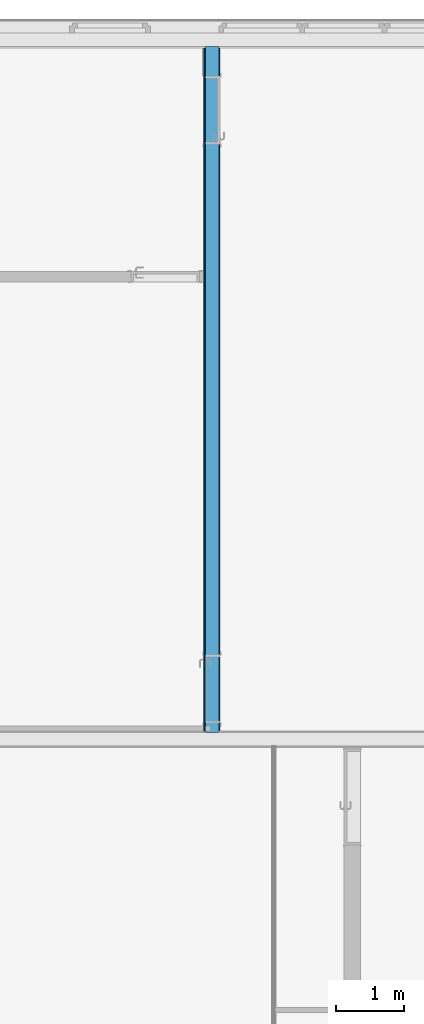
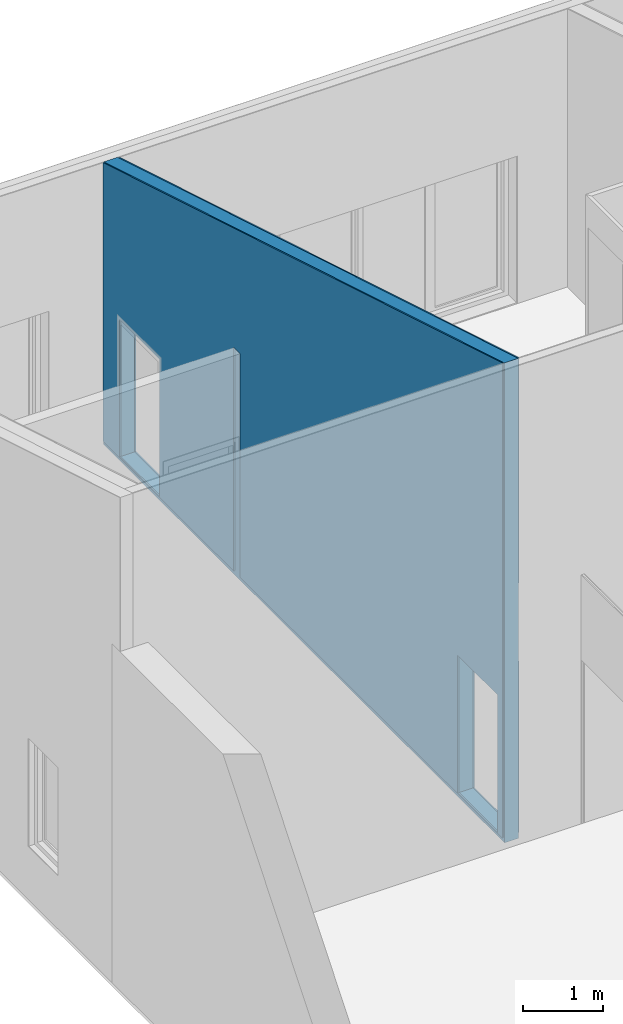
# One storey, part 17 of 34: 3 building element parts, 2 openings, 1 element without a shape of its own.
"""IFC2X3 building model written with IfcOpenShell, lengths in metres."""

import ifcopenshell
import ifcopenshell.guid

model = None  # the IFC model being written
_history = None  # IfcOwnerHistory: only IFC2X3 demands one
_inside = {}  # id of a spatial element -> (the spatial element, [elements in it])
_under = {}  # id of a project, library or spatial element -> (it, [spatial elements below it])
_declared = {}  # id of a project -> (the project, [libraries it declares])
_typed = {}  # id of a type object -> (the type object, [elements of that type])
_made_of = {}  # id of a material, layer set ... -> (it, [elements and type objects made of it])


def new_model(schema):
    """Start an empty IFC model of exactly this schema.

    Asked for "IFC4X3", IfcOpenShell would pick the latest addendum, in which some entities
    have other attributes; the version numbers below select the first issue.
    IFC2X3 requires an IfcOwnerHistory on every rooted entity: one is made here for all.
    """
    global model, _history
    if schema == "IFC4X3":
        model = ifcopenshell.file(schema_version=(4, 3, 0, 0))
    else:
        model = ifcopenshell.file(schema=schema)
    _inside.clear()
    _under.clear()
    _declared.clear()
    _typed.clear()
    _made_of.clear()
    _history = None
    if model.schema == "IFC2X3":
        org = make("IfcOrganization", Name="unknown")
        user = make(
            "IfcPersonAndOrganization",
            ThePerson=make("IfcPerson", FamilyName="unknown"),
            TheOrganization=org,
        )
        app = make(
            "IfcApplication",
            ApplicationDeveloper=org,
            Version="unknown",
            ApplicationFullName="unknown",
            ApplicationIdentifier="unknown",
        )
        _history = make(
            "IfcOwnerHistory",
            OwningUser=user,
            OwningApplication=app,
            ChangeAction="ADDED",
            CreationDate=0,
        )
    return model


def make(cls, **values):
    """One entity of the class cls with the attributes given. An attribute that is None is left unset."""
    return model.create_entity(
        cls, **{name: value for name, value in values.items() if value is not None}
    )


def entity(cls, *values):
    """Any entity or typed value of the class cls, its attributes in the order of the schema. None: left unset."""
    e = model.create_entity(cls)
    for i, value in enumerate(values):
        if value is not None:
            e[i] = value
    return e


def rooted(cls, **values):
    """An entity with a GlobalId (a new one), such as an element, a storey or a relation."""
    return make(cls, GlobalId=ifcopenshell.guid.new(), OwnerHistory=_history, **values)


def si_unit(unit_type, name, prefix=None):
    """IfcSIUnit, for example si_unit("LENGTHUNIT", "METRE", prefix="MILLI")."""
    return make("IfcSIUnit", UnitType=unit_type, Prefix=prefix, Name=name)


def converted_unit(unit_type, name, factor, base, dimensions=None, offset=None):
    """IfcConversionBasedUnit, such as the inch: factor (a typed value) times the base unit."""
    return make(
        "IfcConversionBasedUnit"
        if offset is None
        else "IfcConversionBasedUnitWithOffset",
        ConversionOffset=offset,
        Dimensions=None
        if dimensions is None
        else entity("IfcDimensionalExponents", *dimensions),
        UnitType=unit_type,
        Name=name,
        ConversionFactor=make(
            "IfcMeasureWithUnit", ValueComponent=factor, UnitComponent=base
        ),
    )


def derived_unit(unit_type, elements):
    """IfcDerivedUnit: a product of units, each with its exponent."""
    return make(
        "IfcDerivedUnit",
        Elements=[
            make("IfcDerivedUnitElement", Unit=unit, Exponent=power)
            for unit, power in elements
        ],
        UnitType=unit_type,
    )


def money_unit(currency):
    """IfcMonetaryUnit."""
    return make("IfcMonetaryUnit", Currency=currency)


def assignment(units):
    """IfcUnitAssignment: the units of a project."""
    return None if units is None else make("IfcUnitAssignment", Units=units)


def point(xyz):
    """IfcCartesianPoint."""
    return None if xyz is None else make("IfcCartesianPoint", Coordinates=xyz)


def direction(xyz):
    """IfcDirection."""
    return None if xyz is None else make("IfcDirection", DirectionRatios=xyz)


def frame(location, z_axis=None, x_axis=None):
    """IfcAxis2Placement3D, a coordinate frame: its origin and axes. An axis left out is left unset."""
    return make(
        "IfcAxis2Placement3D",
        Location=point(location),
        Axis=direction(z_axis),
        RefDirection=direction(x_axis),
    )


def frame_2d(location, x_axis=None):
    """IfcAxis2Placement2D, a coordinate frame in the plane: its origin and x axis."""
    return make(
        "IfcAxis2Placement2D", Location=point(location), RefDirection=direction(x_axis)
    )


def origin_with_axes():
    """The frame at (0, 0, 0) with the z axis (0, 0, 1) and the x axis (1, 0, 0) written out."""
    return frame((0.0, 0.0, 0.0), z_axis=(0.0, 0.0, 1.0), x_axis=(1.0, 0.0, 0.0))


def origin_2d_with_axis():
    """The frame at (0, 0) in the plane with the x axis (1, 0) written out."""
    return frame_2d((0.0, 0.0), x_axis=(1.0, 0.0))


def place(relative_to, where):
    """IfcLocalPlacement: puts the frame where relative to a parent placement (None: the world)."""
    return make(
        "IfcLocalPlacement", PlacementRelTo=relative_to, RelativePlacement=where
    )


def context(
    kind, dimensions, precision=None, world=None, true_north=None, identifier=None
):
    """IfcGeometricRepresentationContext, for example the 3D "Model" context."""
    return make(
        "IfcGeometricRepresentationContext",
        ContextIdentifier=identifier,
        ContextType=kind,
        CoordinateSpaceDimension=dimensions,
        Precision=precision,
        WorldCoordinateSystem=world,
        TrueNorth=true_north,
    )


def subcontext(parent, identifier, kind, view, scale=None):
    """IfcGeometricRepresentationSubContext, for example "Body" below "Model"."""
    return make(
        "IfcGeometricRepresentationSubContext",
        ContextIdentifier=identifier,
        ContextType=kind,
        ParentContext=parent,
        TargetScale=scale,
        TargetView=view,
    )


def project(units=None, contexts=None):
    """IfcProject with its units and contexts."""
    return rooted(
        "IfcProject",
        Name="project",
        RepresentationContexts=contexts,
        UnitsInContext=assignment(units),
    )


def spatial(cls, under=None, at=None, **own):
    """A site, building, storey or space (cls), placed at a placement, below another one or the project."""
    s = rooted(cls, ObjectPlacement=at, **own)
    if under is not None:
        _under.setdefault(under.id(), (under, []))[1].append(s)
    return s


def polyline(points):
    """IfcPolyline through the points."""
    return make("IfcPolyline", Points=[point(p) for p in points])


def profile(cls, at=None, kind="AREA", **sizes):
    """A parametric profile (cls). Its sizes go by their IFC names, for example OverallWidth=200.0."""
    return make(cls, ProfileType=kind, Position=at, **sizes)


def rectangle(**sizes):
    """IfcRectangleProfileDef."""
    return profile("IfcRectangleProfileDef", **sizes)


def outline(outer, holes=None, kind="AREA"):
    """IfcArbitraryClosedProfileDef: a profile drawn as a closed curve; with holes, ...WithVoids."""
    if holes is None:
        return make("IfcArbitraryClosedProfileDef", ProfileType=kind, OuterCurve=outer)
    return make(
        "IfcArbitraryProfileDefWithVoids",
        ProfileType=kind,
        OuterCurve=outer,
        InnerCurves=holes,
    )


def extrude(swept, where, along, depth):
    """IfcExtrudedAreaSolid: the profile swept, set in the frame where, extruded along a direction by depth."""
    return make(
        "IfcExtrudedAreaSolid",
        SweptArea=swept,
        Position=where,
        ExtrudedDirection=direction(along),
        Depth=depth,
    )


def boolean(op, a, b):
    """IfcBooleanResult of two solids."""
    return make("IfcBooleanResult", Operator=op, FirstOperand=a, SecondOperand=b)


def faces_of(points, faces, orient=None, outer=None):
    """IfcFace entities. A face is a list of loops; a loop is a list of indices into points, from 0.

    orient and outer hold one flag for each loop. By default every Orientation is true, the
    first loop of a face is its IfcFaceOuterBound and the others are IfcFaceBound.
    """
    made = []
    for i, loops in enumerate(faces):
        bounds = []
        for j, loop in enumerate(loops):
            is_outer = j == 0 if outer is None else outer[i][j]
            bounds.append(
                make(
                    "IfcFaceOuterBound" if is_outer else "IfcFaceBound",
                    Bound=make("IfcPolyLoop", Polygon=[points[k] for k in loop]),
                    Orientation=True if orient is None else orient[i][j],
                )
            )
        made.append(make("IfcFace", Bounds=bounds))
    return made


def faceted_brep(points, faces, orient=None, outer=None, voids=None):
    """IfcFacetedBrep: a solid bounded by flat faces; with voids (closed shells), ...WithVoids."""
    shared = [point(p) for p in points]
    hull = make("IfcClosedShell", CfsFaces=faces_of(shared, faces, orient, outer))
    if voids is None:
        return make("IfcFacetedBrep", Outer=hull)
    return make(
        "IfcFacetedBrepWithVoids",
        Outer=hull,
        Voids=[
            make(cls, CfsFaces=faces_of(shared, fs, o, b)) for cls, fs, o, b in voids
        ],
    )


def shape(context_of_items, identifier, shape_type, items):
    """IfcShapeRepresentation: the items that make up one representation, for example the "Body"."""
    return make(
        "IfcShapeRepresentation",
        ContextOfItems=context_of_items,
        RepresentationIdentifier=identifier,
        RepresentationType=shape_type,
        Items=items,
    )


def material(Name=None, Category=None):
    """IfcMaterial."""
    return make("IfcMaterial", Name=Name, Category=Category)


def made_of(thing, what):
    """Note that an element or type object is made of a material, layer set ...; save() writes the relation."""
    if what is not None:
        _made_of.setdefault(what.id(), (what, []))[1].append(thing)
    return thing


def type_object(cls, material=None, **own):
    """A type object (cls), such as IfcWallType, which elements share."""
    return made_of(rooted(cls, **own), material)


def element(
    cls,
    number,
    at=None,
    inside=None,
    cuts=None,
    type_object=None,
    material=None,
    context=None,
    identifier="Body",
    shape_type=None,
    held_by="IfcProductDefinitionShape",
    body=None,
    shapes=None,
    **own,
):
    """One element of the class cls, such as IfcWall. Its Tag is "e" and its number.

    at: its placement. inside: the storey or other place that contains it. cuts: it is an
    opening in that element (IfcRelVoidsElement). A single representation is given by context,
    identifier, shape_type and body (its items); several are given by shapes. held_by: the class
    of the entity that holds the representations. save() writes the other relations.
    """
    e = rooted(cls, Tag="e%d" % number, ObjectPlacement=at, **own)
    if body is not None:
        shapes = [shape(context, identifier, shape_type, body)]
    if shapes is not None:
        e.Representation = make(held_by, Representations=shapes)
    if inside is not None:
        _inside.setdefault(inside.id(), (inside, []))[1].append(e)
    if cuts is not None:
        rooted(
            "IfcRelVoidsElement", RelatingBuildingElement=cuts, RelatedOpeningElement=e
        )
    if type_object is not None:
        _typed.setdefault(type_object.id(), (type_object, []))[1].append(e)
    return made_of(e, material)


def aggregate(whole, parts):
    """IfcRelAggregates: a whole, such as a stair, and the parts it consists of."""
    return rooted("IfcRelAggregates", RelatingObject=whole, RelatedObjects=parts)


def save(model, path):
    """Write the relations noted so far, then the file.

    IfcRelAggregates (storeys below a building ...), IfcRelContainedInSpatialStructure (elements
    in a storey), IfcRelDefinesByType, IfcRelAssociatesMaterial and IfcRelDeclares: one each for
    every whole, place, type object, material and project.
    """
    for whole, parts in _under.values():
        aggregate(whole, parts)
    for where, things in _inside.values():
        rooted(
            "IfcRelContainedInSpatialStructure",
            RelatedElements=things,
            RelatingStructure=where,
        )
    for kind, things in _typed.values():
        rooted("IfcRelDefinesByType", RelatedObjects=things, RelatingType=kind)
    for what, things in _made_of.values():
        rooted("IfcRelAssociatesMaterial", RelatedObjects=things, RelatingMaterial=what)
    for by, libraries in _declared.values():
        rooted("IfcRelDeclares", RelatingContext=by, RelatedDefinitions=libraries)
    model.write(path)


model = new_model("IFC2X3")

# Units and contexts
model_context = context("Model", 3, precision=1e-05, world=origin_with_axes(), true_north=direction((0.0, 1.0)))
body_context = subcontext(model_context, "Body", "Model", "MODEL_VIEW")
ifc_project = project(units=[si_unit("LENGTHUNIT", "METRE"), si_unit("AREAUNIT", "SQUARE_METRE"), si_unit("VOLUMEUNIT", "CUBIC_METRE"), converted_unit("PLANEANGLEUNIT", "DEGREE", entity("IfcPlaneAngleMeasure", 0.0174532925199), si_unit("PLANEANGLEUNIT", "RADIAN"), dimensions=[0, 0, 0, 0, 0, 0, 0]), money_unit("CHF"), converted_unit("TIMEUNIT", "Year", entity("IfcTimeMeasure", 31556926.0), si_unit("TIMEUNIT", "SECOND"), dimensions=[0, 0, 1, 0, 0, 0, 0]), si_unit("MASSUNIT", "GRAM", prefix="KILO"), si_unit("THERMODYNAMICTEMPERATUREUNIT", "DEGREE_CELSIUS"), si_unit("LUMINOUSINTENSITYUNIT", "LUMEN"), si_unit("ENERGYUNIT", "JOULE", prefix="MEGA"), derived_unit("THERMALCONDUCTANCEUNIT", [(si_unit("POWERUNIT", "WATT"), 1), (si_unit("LENGTHUNIT", "METRE"), -1), (si_unit("THERMODYNAMICTEMPERATUREUNIT", "KELVIN"), -1)]), derived_unit("SPECIFICHEATCAPACITYUNIT", [(si_unit("ENERGYUNIT", "JOULE"), 1), (si_unit("MASSUNIT", "GRAM", prefix="KILO"), -1), (si_unit("THERMODYNAMICTEMPERATUREUNIT", "KELVIN"), -1)]), derived_unit("MASSDENSITYUNIT", [(si_unit("MASSUNIT", "GRAM", prefix="KILO"), 1), (si_unit("VOLUMEUNIT", "CUBIC_METRE"), -1)])], contexts=[model_context])

# Site, building, storey
site_placement = place(None, origin_with_axes())
site = spatial("IfcSite", under=ifc_project, at=site_placement, Name="Site", CompositionType="ELEMENT")
building_placement = place(site_placement, origin_with_axes())
building = spatial("IfcBuilding", under=site, at=building_placement, Name="Bâtiment", CompositionType="ELEMENT")
storey_placement = place(building_placement, origin_with_axes())
storey = spatial("IfcBuildingStorey", under=building, at=storey_placement, Name="Rez-de-chaussée", CompositionType="ELEMENT", Elevation=0.0)

# Wall, openings, building element parts
wall_type = type_object("IfcWallType", Name="Mur 20cm + enduit 2cm 240", PredefinedType="NOTDEFINED")
wall_placement = place(storey_placement, frame((16.6394697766, 25.2201256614, -0.21), z_axis=(0.0, 0.0, 1.0), x_axis=(0.0, -1.0, 0.0)))
wall = element("IfcWall", 1, at=wall_placement, inside=storey, type_object=wall_type, Name="MUR_EXT-007")
opening_1_placement = place(wall_placement, frame((9.48512566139, 0.0, 0.21), z_axis=(0.0, 0.0, 1.0), x_axis=(1.0, 0.0, 0.0)))
element("IfcOpeningElement", 2, at=opening_1_placement, cuts=wall, Name="PORTE-PP90 A2 - PF1/2H", context=body_context, shape_type="SweptSolid", body=[
    extrude(rectangle(XDim=1.0, YDim=2.1, at=origin_2d_with_axis()), frame((0.0, 0.24, 1.05), z_axis=(0.0, 1.0, 0.0), x_axis=(1.0, 0.0, 0.0)), (0.0, 0.0, -1.0), 0.72),
    extrude(rectangle(XDim=1.1, YDim=2.15, at=origin_2d_with_axis()), frame((0.0, 0.12, 1.075), z_axis=(0.0, 1.0, 0.0), x_axis=(1.0, 0.0, 0.0)), (0.0, 0.0, 1.0), 0.24),
    extrude(rectangle(XDim=1.09, YDim=2.145, at=origin_2d_with_axis()), frame((0.0, -0.12, 1.0725), z_axis=(0.0, -1.0, 0.0), x_axis=(1.0, 0.0, 0.0)), (0.0, 0.0, 1.0), 0.24),
])
opening_2_placement = place(wall_placement, frame((1.02747499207, 0.0, 0.21), z_axis=(0.0, 0.0, 1.0), x_axis=(1.0, 0.0, 0.0)))
element("IfcOpeningElement", 3, at=opening_2_placement, cuts=wall, Name="PORTE-PP90 A2 - PF1/2H", context=body_context, shape_type="SweptSolid", body=[
    extrude(rectangle(XDim=1.0, YDim=2.1, at=origin_2d_with_axis()), frame((0.0, -0.24, 1.05), z_axis=(0.0, -1.0, 0.0), x_axis=(-1.0, 0.0, 0.0)), (0.0, 0.0, -1.0), 0.72),
    extrude(rectangle(XDim=1.1, YDim=2.15, at=origin_2d_with_axis()), frame((0.0, -0.12, 1.075), z_axis=(0.0, -1.0, 0.0), x_axis=(-1.0, 0.0, 0.0)), (0.0, 0.0, 1.0), 0.24),
    extrude(rectangle(XDim=1.09, YDim=2.145, at=origin_2d_with_axis()), frame((0.0, 0.12, 1.0725), z_axis=(0.0, 1.0, 0.0), x_axis=(-1.0, 0.0, 0.0)), (0.0, 0.0, 1.0), 0.24),
])
ifc_material_1 = material(Name="Finition int - Enduit plâtre")
building_element_part_1_placement = place(wall_placement, origin_with_axes())
building_element_part_1 = element("IfcBuildingElementPart", 4, at=building_element_part_1_placement, material=ifc_material_1, Name="Finition int - Enduit plâtre", context=body_context, shape_type="CSG", body=[
    boolean("DIFFERENCE", boolean("DIFFERENCE", boolean("DIFFERENCE", extrude(outline(polyline([(-0.29, 0.1), (10.3401256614, 0.1), (10.3401256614, 0.12), (-0.29, 0.12), (-0.29, 0.1)])), origin_with_axes(), (0.0, 0.0, 1.0), 7.64), faceted_brep([(-0.29, 0.1, 7.64), (-0.29, 0.1, 0.0), (10.3401256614, 0.1, 0.0), (10.3401256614, 0.1, 7.64), (10.1001256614, 0.1, 0.2), (0.12, 0.1, 0.2), (0.12, 0.1, 2.81), (10.1001256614, 0.1, 2.81), (10.1001256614, 0.1, 4.01), (0.12, 0.1, 4.01), (0.12, 0.1, 4.45417566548), (10.1001256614, 0.1, 7.44821336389), (-0.29, 0.12, 7.64), (-0.29, 0.12, 0.0), (10.3401256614, 0.12, 0.0), (10.3401256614, 0.12, 7.64), (10.1001256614, 0.119999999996, 0.2), (0.12, 0.119999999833, 0.2), (0.12, 0.119999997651, 2.81), (10.1001256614, 0.119999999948, 2.81), (10.1001256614, 0.119999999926, 4.01), (0.12, 0.119999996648, 4.01), (0.12, 0.119999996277, 4.45417566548), (10.1001256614, 0.119999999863, 7.44821336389)], [[[0, 1, 2, 3], [4, 5, 6, 7], [8, 9, 10, 11]], [[12, 13, 1, 0]], [[2, 1, 13, 14]], [[3, 2, 14, 15]], [[12, 0, 3, 15]], [[16, 17, 5, 4]], [[17, 18, 6, 5]], [[18, 19, 7, 6]], [[19, 16, 4, 7]], [[20, 21, 9, 8]], [[21, 22, 10, 9]], [[22, 23, 11, 10]], [[23, 20, 8, 11]], [[15, 14, 13, 12], [16, 19, 18, 17], [20, 23, 22, 21]]])), faceted_brep([(-0.29, -0.1, 7.64), (-0.29, -0.1, 0.0), (10.3401256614, -0.1, 0.0), (10.3401256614, -0.1, 7.64), (10.1201256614, -0.1, 0.13), (0.1, -0.1, 0.13), (0.1, -0.1, 4.44817566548), (0.12, -0.1, 4.45417566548), (10.1001256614, -0.1, 7.44821336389), (10.1201256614, -0.1, 7.45421336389), (-0.29, 0.1, 7.64), (-0.29, 0.1, 0.0), (10.3401256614, 0.1, 0.0), (10.3401256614, 0.1, 7.64), (10.1201256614, 0.1, 0.13), (0.1, 0.1, 0.13), (0.1, 0.1, 4.44817566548), (0.12, 0.1, 4.45417566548), (10.1001256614, 0.1, 7.44821336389), (10.1201256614, 0.1, 7.45421336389)], [[[0, 1, 2, 3], [4, 5, 6, 7, 8, 9]], [[10, 11, 1, 0]], [[2, 1, 11, 12]], [[3, 2, 12, 13]], [[10, 0, 3, 13]], [[14, 15, 5, 4]], [[15, 16, 6, 5]], [[16, 17, 18, 19, 9, 8, 7, 6]], [[19, 14, 4, 9]], [[13, 12, 11, 10], [18, 17, 16, 15, 14, 19]]])), faceted_brep([(-0.29, -0.12, 7.64), (-0.29, -0.12, 0.0), (10.3401256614, -0.12, 0.0), (10.3401256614, -0.12, 7.64), (3.38162566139, -0.12, 0.2), (0.12, -0.12, 0.2), (0.12, -0.12, 4.45417566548), (10.1001256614, -0.12, 7.44821336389), (10.1001256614, -0.12, 0.2), (3.54012566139, -0.12, 0.2), (3.54012566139, -0.12, 3.61), (3.38162566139, -0.12, 3.61), (-0.29, -0.1, 7.64), (-0.29, -0.1, 0.0), (10.3401256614, -0.1, 0.0), (10.3401256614, -0.1, 7.64), (3.38162566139, -0.1, 0.2), (0.12, -0.1, 0.2), (0.12, -0.1, 4.45417566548), (10.1001256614, -0.1, 7.44821336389), (10.1001256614, -0.1, 0.2), (3.54012566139, -0.1, 0.2), (3.54012566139, -0.1, 3.61), (3.38162566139, -0.1, 3.61)], [[[0, 1, 2, 3], [4, 5, 6, 7, 8, 9, 10, 11]], [[12, 13, 1, 0]], [[2, 1, 13, 14]], [[3, 2, 14, 15]], [[12, 0, 3, 15]], [[16, 17, 5, 4]], [[17, 18, 6, 5]], [[18, 19, 7, 6]], [[19, 20, 8, 7]], [[20, 21, 9, 8]], [[21, 22, 10, 9]], [[22, 23, 11, 10]], [[23, 16, 4, 11]], [[15, 14, 13, 12], [20, 19, 18, 17, 16, 23, 22, 21]]])),
])
ifc_material_2 = material(Name="Béton armé (Coulé)")
building_element_part_2_placement = place(wall_placement, origin_with_axes())
building_element_part_2 = element("IfcBuildingElementPart", 5, at=building_element_part_2_placement, material=ifc_material_2, Name="Béton armé (Coulé)", context=body_context, shape_type="CSG", body=[
    boolean("DIFFERENCE", boolean("DIFFERENCE", boolean("DIFFERENCE", extrude(outline(polyline([(-0.29, -0.1), (10.3401256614, -0.1), (10.3401256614, 0.1), (-0.29, 0.1), (-0.29, -0.1)])), origin_with_axes(), (0.0, 0.0, 1.0), 7.64), faceted_brep([(-0.29, 0.1, 7.64), (-0.29, 0.1, 0.0), (10.3401256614, 0.1, 0.0), (10.3401256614, 0.1, 7.64), (10.1001256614, 0.1, 0.2), (0.12, 0.1, 0.2), (0.12, 0.1, 2.81), (10.1001256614, 0.1, 2.81), (10.1001256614, 0.1, 4.01), (0.12, 0.1, 4.01), (0.12, 0.1, 4.45417566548), (10.1001256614, 0.1, 7.44821336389), (-0.29, 0.12, 7.64), (-0.29, 0.12, 0.0), (10.3401256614, 0.12, 0.0), (10.3401256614, 0.12, 7.64), (10.1001256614, 0.119999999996, 0.2), (0.12, 0.119999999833, 0.2), (0.12, 0.119999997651, 2.81), (10.1001256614, 0.119999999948, 2.81), (10.1001256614, 0.119999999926, 4.01), (0.12, 0.119999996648, 4.01), (0.12, 0.119999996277, 4.45417566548), (10.1001256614, 0.119999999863, 7.44821336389)], [[[0, 1, 2, 3], [4, 5, 6, 7], [8, 9, 10, 11]], [[12, 13, 1, 0]], [[2, 1, 13, 14]], [[3, 2, 14, 15]], [[12, 0, 3, 15]], [[16, 17, 5, 4]], [[17, 18, 6, 5]], [[18, 19, 7, 6]], [[19, 16, 4, 7]], [[20, 21, 9, 8]], [[21, 22, 10, 9]], [[22, 23, 11, 10]], [[23, 20, 8, 11]], [[15, 14, 13, 12], [16, 19, 18, 17], [20, 23, 22, 21]]])), faceted_brep([(-0.29, -0.1, 7.64), (-0.29, -0.1, 0.0), (10.3401256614, -0.1, 0.0), (10.3401256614, -0.1, 7.64), (10.1201256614, -0.1, 0.13), (0.1, -0.1, 0.13), (0.1, -0.1, 4.44817566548), (0.12, -0.1, 4.45417566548), (10.1001256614, -0.1, 7.44821336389), (10.1201256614, -0.1, 7.45421336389), (-0.29, 0.1, 7.64), (-0.29, 0.1, 0.0), (10.3401256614, 0.1, 0.0), (10.3401256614, 0.1, 7.64), (10.1201256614, 0.1, 0.13), (0.1, 0.1, 0.13), (0.1, 0.1, 4.44817566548), (0.12, 0.1, 4.45417566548), (10.1001256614, 0.1, 7.44821336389), (10.1201256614, 0.1, 7.45421336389)], [[[0, 1, 2, 3], [4, 5, 6, 7, 8, 9]], [[10, 11, 1, 0]], [[2, 1, 11, 12]], [[3, 2, 12, 13]], [[10, 0, 3, 13]], [[14, 15, 5, 4]], [[15, 16, 6, 5]], [[16, 17, 18, 19, 9, 8, 7, 6]], [[19, 14, 4, 9]], [[13, 12, 11, 10], [18, 17, 16, 15, 14, 19]]])), faceted_brep([(-0.29, -0.12, 7.64), (-0.29, -0.12, 0.0), (10.3401256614, -0.12, 0.0), (10.3401256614, -0.12, 7.64), (3.38162566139, -0.12, 0.2), (0.12, -0.12, 0.2), (0.12, -0.12, 4.45417566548), (10.1001256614, -0.12, 7.44821336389), (10.1001256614, -0.12, 0.2), (3.54012566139, -0.12, 0.2), (3.54012566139, -0.12, 3.61), (3.38162566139, -0.12, 3.61), (-0.29, -0.1, 7.64), (-0.29, -0.1, 0.0), (10.3401256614, -0.1, 0.0), (10.3401256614, -0.1, 7.64), (3.38162566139, -0.1, 0.2), (0.12, -0.1, 0.2), (0.12, -0.1, 4.45417566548), (10.1001256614, -0.1, 7.44821336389), (10.1001256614, -0.1, 0.2), (3.54012566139, -0.1, 0.2), (3.54012566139, -0.1, 3.61), (3.38162566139, -0.1, 3.61)], [[[0, 1, 2, 3], [4, 5, 6, 7, 8, 9, 10, 11]], [[12, 13, 1, 0]], [[2, 1, 13, 14]], [[3, 2, 14, 15]], [[12, 0, 3, 15]], [[16, 17, 5, 4]], [[17, 18, 6, 5]], [[18, 19, 7, 6]], [[19, 20, 8, 7]], [[20, 21, 9, 8]], [[21, 22, 10, 9]], [[22, 23, 11, 10]], [[23, 16, 4, 11]], [[15, 14, 13, 12], [20, 19, 18, 17, 16, 23, 22, 21]]])),
])
building_element_part_3_placement = place(wall_placement, origin_with_axes())
building_element_part_3 = element("IfcBuildingElementPart", 6, at=building_element_part_3_placement, material=ifc_material_1, Name="Finition int - Enduit plâtre", context=body_context, shape_type="CSG", body=[
    boolean("DIFFERENCE", boolean("DIFFERENCE", boolean("DIFFERENCE", extrude(outline(polyline([(-0.29, -0.12), (10.3401256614, -0.12), (10.3401256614, -0.1), (-0.29, -0.1), (-0.29, -0.12)])), origin_with_axes(), (0.0, 0.0, 1.0), 7.64), faceted_brep([(-0.29, 0.1, 7.64), (-0.29, 0.1, 0.0), (10.3401256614, 0.1, 0.0), (10.3401256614, 0.1, 7.64), (10.1001256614, 0.1, 0.2), (0.12, 0.1, 0.2), (0.12, 0.1, 2.81), (10.1001256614, 0.1, 2.81), (10.1001256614, 0.1, 4.01), (0.12, 0.1, 4.01), (0.12, 0.1, 4.45417566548), (10.1001256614, 0.1, 7.44821336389), (-0.29, 0.12, 7.64), (-0.29, 0.12, 0.0), (10.3401256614, 0.12, 0.0), (10.3401256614, 0.12, 7.64), (10.1001256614, 0.119999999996, 0.2), (0.12, 0.119999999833, 0.2), (0.12, 0.119999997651, 2.81), (10.1001256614, 0.119999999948, 2.81), (10.1001256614, 0.119999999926, 4.01), (0.12, 0.119999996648, 4.01), (0.12, 0.119999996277, 4.45417566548), (10.1001256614, 0.119999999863, 7.44821336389)], [[[0, 1, 2, 3], [4, 5, 6, 7], [8, 9, 10, 11]], [[12, 13, 1, 0]], [[2, 1, 13, 14]], [[3, 2, 14, 15]], [[12, 0, 3, 15]], [[16, 17, 5, 4]], [[17, 18, 6, 5]], [[18, 19, 7, 6]], [[19, 16, 4, 7]], [[20, 21, 9, 8]], [[21, 22, 10, 9]], [[22, 23, 11, 10]], [[23, 20, 8, 11]], [[15, 14, 13, 12], [16, 19, 18, 17], [20, 23, 22, 21]]])), faceted_brep([(-0.29, -0.1, 7.64), (-0.29, -0.1, 0.0), (10.3401256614, -0.1, 0.0), (10.3401256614, -0.1, 7.64), (10.1201256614, -0.1, 0.13), (0.1, -0.1, 0.13), (0.1, -0.1, 4.44817566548), (0.12, -0.1, 4.45417566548), (10.1001256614, -0.1, 7.44821336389), (10.1201256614, -0.1, 7.45421336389), (-0.29, 0.1, 7.64), (-0.29, 0.1, 0.0), (10.3401256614, 0.1, 0.0), (10.3401256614, 0.1, 7.64), (10.1201256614, 0.1, 0.13), (0.1, 0.1, 0.13), (0.1, 0.1, 4.44817566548), (0.12, 0.1, 4.45417566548), (10.1001256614, 0.1, 7.44821336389), (10.1201256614, 0.1, 7.45421336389)], [[[0, 1, 2, 3], [4, 5, 6, 7, 8, 9]], [[10, 11, 1, 0]], [[2, 1, 11, 12]], [[3, 2, 12, 13]], [[10, 0, 3, 13]], [[14, 15, 5, 4]], [[15, 16, 6, 5]], [[16, 17, 18, 19, 9, 8, 7, 6]], [[19, 14, 4, 9]], [[13, 12, 11, 10], [18, 17, 16, 15, 14, 19]]])), faceted_brep([(-0.29, -0.12, 7.64), (-0.29, -0.12, 0.0), (10.3401256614, -0.12, 0.0), (10.3401256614, -0.12, 7.64), (3.38162566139, -0.12, 0.2), (0.12, -0.12, 0.2), (0.12, -0.12, 4.45417566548), (10.1001256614, -0.12, 7.44821336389), (10.1001256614, -0.12, 0.2), (3.54012566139, -0.12, 0.2), (3.54012566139, -0.12, 3.61), (3.38162566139, -0.12, 3.61), (-0.29, -0.1, 7.64), (-0.29, -0.1, 0.0), (10.3401256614, -0.1, 0.0), (10.3401256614, -0.1, 7.64), (3.38162566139, -0.1, 0.2), (0.12, -0.1, 0.2), (0.12, -0.1, 4.45417566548), (10.1001256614, -0.1, 7.44821336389), (10.1001256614, -0.1, 0.2), (3.54012566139, -0.1, 0.2), (3.54012566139, -0.1, 3.61), (3.38162566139, -0.1, 3.61)], [[[0, 1, 2, 3], [4, 5, 6, 7, 8, 9, 10, 11]], [[12, 13, 1, 0]], [[2, 1, 13, 14]], [[3, 2, 14, 15]], [[12, 0, 3, 15]], [[16, 17, 5, 4]], [[17, 18, 6, 5]], [[18, 19, 7, 6]], [[19, 20, 8, 7]], [[20, 21, 9, 8]], [[21, 22, 10, 9]], [[22, 23, 11, 10]], [[23, 16, 4, 11]], [[15, 14, 13, 12], [20, 19, 18, 17, 16, 23, 22, 21]]])),
])
aggregate(wall, [building_element_part_1, building_element_part_2, building_element_part_3])

save(model, "model.ifc")
